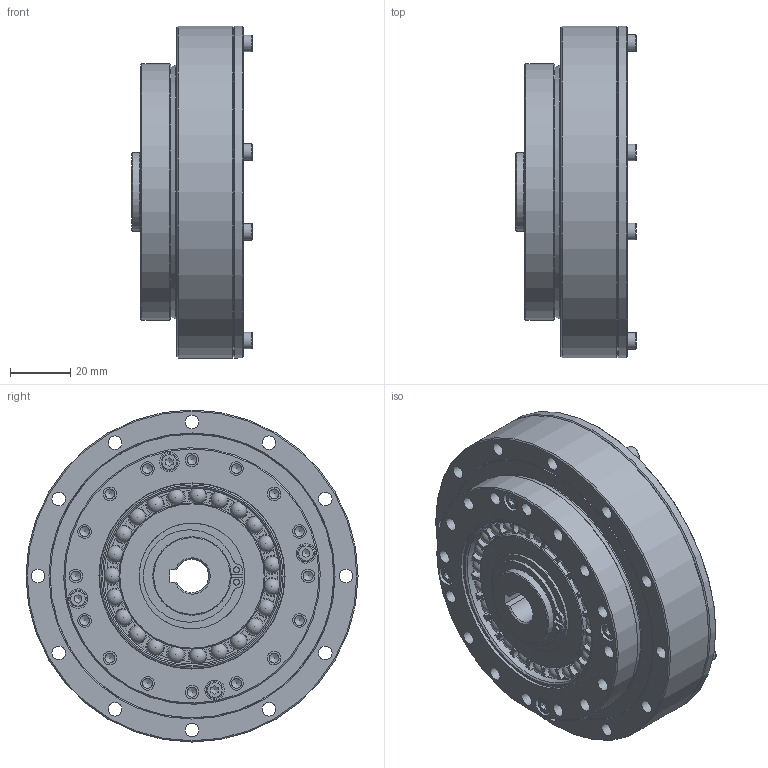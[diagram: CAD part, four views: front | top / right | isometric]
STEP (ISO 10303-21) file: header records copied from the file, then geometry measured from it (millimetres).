
FILE_DESCRIPTION(/* description */ (''),/* implementation_level */ '2;1');
FILE_NAME(/* name */ 'S:\TB00F\研發課二組\機密級\97.\X2\540C4EC151714EAB5340\X0\ (機密級)\H11\欣怡\2023專案追蹤\2.型錄\模型\\X2\5B987DB2\X0\3D檔(NEW)\DSH-PO(14-40)\DSH-25-XX-PO.stp',/* time_stamp */ '2024-10-23T18:22:59+08:00',/* author */ ('bb1128.zheng'),/* organization */ (''),/* preprocessor_version */ 'ST-DEVELOPER v15.2',/* originating_system */ 'Autodesk Inventor 2014',/* authorisation */ '');
FILE_SCHEMA (('AUTOMOTIVE_DESIGN { 1 0 10303 214 3 1 1 }'));
Length unit declared in the file: centimetre
Products named in the file (1): DSH-25-XX-PO
Bounding box: 40 x 110 x 110 mm (x, y, z)
Volume: 198162.1 mm3; surface area: 46527.5 mm2
Topology: 1 solids, 1 shells, 447 faces, 1093 edges, 689 vertices
Faces by surface type: cylinder 185, plane 143, torus 57, cone 39, sphere 23
Full cylindrical faces by diameter (mm): 2 x2, 3.242 x16, 4.5 x40, 5.5 x8, 6.5 x4, 24.9 x1, 26 x1, 35 x2, 43 x1, 48.385 x1, 58.32 x1, 61.34 x2, 84 x1, 85 x1, 88 x1, 94 x1, 110 x2
Entity records: 11959 total; most frequent: DIRECTION 2238, CARTESIAN_POINT 1962, ORIENTED_EDGE 1750, AXIS2_PLACEMENT_3D 1013, EDGE_CURVE 829, EDGE_LOOP 670, VERTEX_POINT 581, CIRCLE 565
